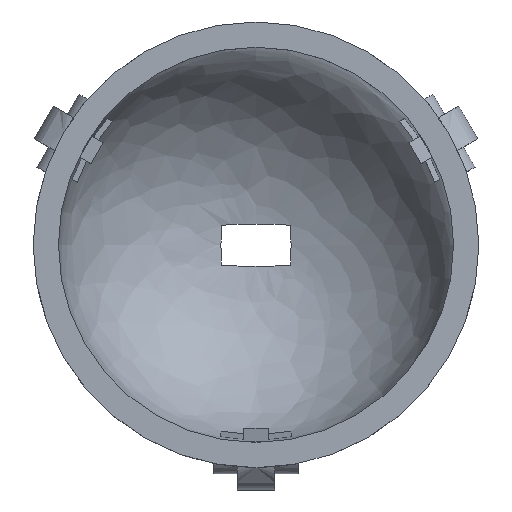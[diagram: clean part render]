
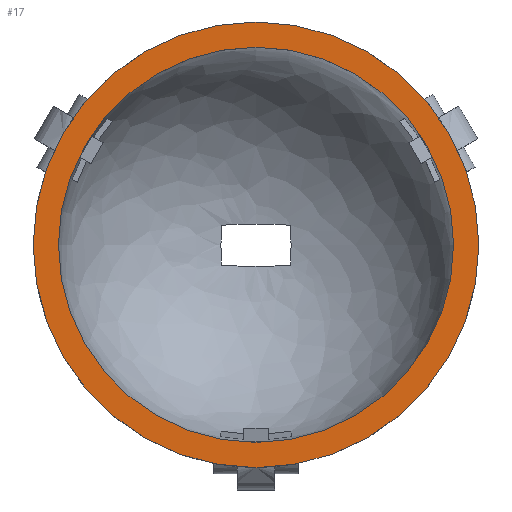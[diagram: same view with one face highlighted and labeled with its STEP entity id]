
A CAD part, top view. The second image highlights one B-rep face of the part: STEP entity #17.
In plain terms, the highlighted planar face has unit normal (0, 0, 1).
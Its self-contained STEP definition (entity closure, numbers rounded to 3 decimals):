
#17 = ADVANCED_FACE('',(#18,#54),#31,.T.);
#18 = FACE_BOUND('',#19,.F.);
#19 = EDGE_LOOP('',(#20));
#20 = ORIENTED_EDGE('',*,*,#21,.T.);
#21 = EDGE_CURVE('',#22,#22,#24,.T.);
#22 = VERTEX_POINT('',#23);
#23 = CARTESIAN_POINT('',(23.5,0.,0.));
#24 = SURFACE_CURVE('',#25,(#30,#42),.PCURVE_S1.);
#25 = CIRCLE('',#26,23.5);
#26 = AXIS2_PLACEMENT_3D('',#27,#28,#29);
#27 = CARTESIAN_POINT('',(0.,0.,0.));
#28 = DIRECTION('',(0.,0.,1.));
#29 = DIRECTION('',(1.,0.,-0.));
#30 = PCURVE('',#31,#36);
#31 = PLANE('',#32);
#32 = AXIS2_PLACEMENT_3D('',#33,#34,#35);
#33 = CARTESIAN_POINT('',(0.,0.,0.));
#34 = DIRECTION('',(0.,0.,1.));
#35 = DIRECTION('',(1.,0.,-0.));
#36 = DEFINITIONAL_REPRESENTATION('',(#37),#41);
#37 = CIRCLE('',#38,23.5);
#38 = AXIS2_PLACEMENT_2D('',#39,#40);
#39 = CARTESIAN_POINT('',(0.,0.));
#40 = DIRECTION('',(1.,-0.));
#41 = ( GEOMETRIC_REPRESENTATION_CONTEXT(2) 
PARAMETRIC_REPRESENTATION_CONTEXT() REPRESENTATION_CONTEXT('2D SPACE',''
  ) );
#42 = PCURVE('',#43,#48);
#43 = CYLINDRICAL_SURFACE('',#44,23.5);
#44 = AXIS2_PLACEMENT_3D('',#45,#46,#47);
#45 = CARTESIAN_POINT('',(0.,0.,-4.));
#46 = DIRECTION('',(0.,0.,1.));
#47 = DIRECTION('',(1.,0.,-0.));
#48 = DEFINITIONAL_REPRESENTATION('',(#49),#53);
#49 = LINE('',#50,#51);
#50 = CARTESIAN_POINT('',(0.,4.));
#51 = VECTOR('',#52,1.);
#52 = DIRECTION('',(1.,0.));
#53 = ( GEOMETRIC_REPRESENTATION_CONTEXT(2) 
PARAMETRIC_REPRESENTATION_CONTEXT() REPRESENTATION_CONTEXT('2D SPACE',''
  ) );
#54 = FACE_BOUND('',#55,.F.);
#55 = EDGE_LOOP('',(#56));
#56 = ORIENTED_EDGE('',*,*,#57,.F.);
#57 = EDGE_CURVE('',#58,#58,#60,.T.);
#58 = VERTEX_POINT('',#59);
#59 = CARTESIAN_POINT('',(26.5,0.,0.));
#60 = SURFACE_CURVE('',#61,(#66,#73),.PCURVE_S1.);
#61 = CIRCLE('',#62,26.5);
#62 = AXIS2_PLACEMENT_3D('',#63,#64,#65);
#63 = CARTESIAN_POINT('',(0.,0.,0.));
#64 = DIRECTION('',(0.,0.,1.));
#65 = DIRECTION('',(1.,0.,-0.));
#66 = PCURVE('',#31,#67);
#67 = DEFINITIONAL_REPRESENTATION('',(#68),#72);
#68 = CIRCLE('',#69,26.5);
#69 = AXIS2_PLACEMENT_2D('',#70,#71);
#70 = CARTESIAN_POINT('',(0.,0.));
#71 = DIRECTION('',(1.,-0.));
#72 = ( GEOMETRIC_REPRESENTATION_CONTEXT(2) 
PARAMETRIC_REPRESENTATION_CONTEXT() REPRESENTATION_CONTEXT('2D SPACE',''
  ) );
#73 = PCURVE('',#74,#79);
#74 = CYLINDRICAL_SURFACE('',#75,26.5);
#75 = AXIS2_PLACEMENT_3D('',#76,#77,#78);
#76 = CARTESIAN_POINT('',(0.,0.,0.));
#77 = DIRECTION('',(-0.,-0.,-1.));
#78 = DIRECTION('',(1.,0.,0.));
#79 = DEFINITIONAL_REPRESENTATION('',(#80),#84);
#80 = LINE('',#81,#82);
#81 = CARTESIAN_POINT('',(-0.,0.));
#82 = VECTOR('',#83,1.);
#83 = DIRECTION('',(-1.,0.));
#84 = ( GEOMETRIC_REPRESENTATION_CONTEXT(2) 
PARAMETRIC_REPRESENTATION_CONTEXT() REPRESENTATION_CONTEXT('2D SPACE',''
  ) );
